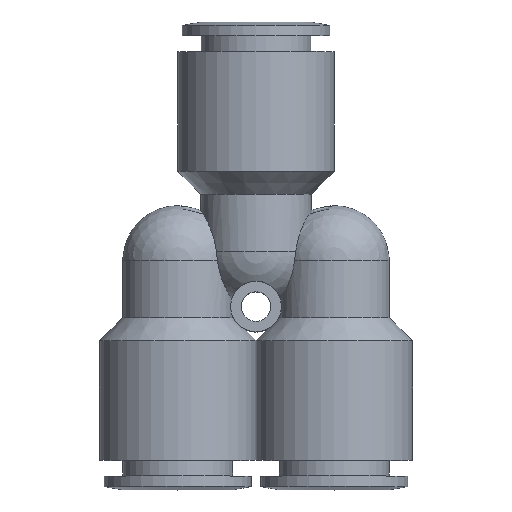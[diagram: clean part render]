
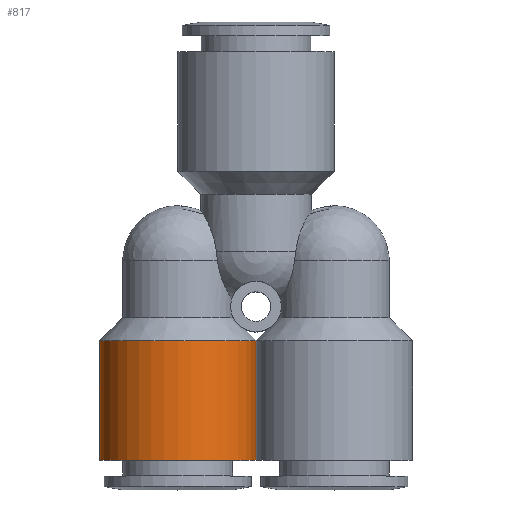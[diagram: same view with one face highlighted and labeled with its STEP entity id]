
A CAD part, top view. The second image highlights one B-rep face of the part: STEP entity #817.
In plain terms, the highlighted cylindrical face has radius 8.5 mm (diameter 17 mm), a full revolution.
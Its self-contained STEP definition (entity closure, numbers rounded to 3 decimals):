
#770=CARTESIAN_POINT('',(0.0,-3.7,0.0));
#771=VERTEX_POINT('',#770);
#772=CARTESIAN_POINT('',(-8.5,-3.7,0.0));
#773=DIRECTION('',(0.0,-1.0,0.0));
#774=DIRECTION('',(1.0,0.0,0.0));
#775=AXIS2_PLACEMENT_3D('',#772,#773,#774);
#776=CIRCLE('',#775,8.5);
#777=EDGE_CURVE('',#771,#771,#776,.T.);
#788=CARTESIAN_POINT('',(-8.5,-10.2,0.0));
#789=DIRECTION('',(0.,-1.0,0.0));
#790=DIRECTION('',(1.0,0.0,0.0));
#791=AXIS2_PLACEMENT_3D('',#788,#789,#790);
#792=CYLINDRICAL_SURFACE('',#791,8.5);
#793=ORIENTED_EDGE('',*,*,#777,.T.);
#794=CARTESIAN_POINT('',(0.0,-16.7,0.0));
#795=VERTEX_POINT('',#794);
#796=CARTESIAN_POINT('',(0.0,-3.7,0.0));
#797=DIRECTION('',(0.0,-1.0,0.0));
#798=VECTOR('',#797,13.0);
#799=LINE('',#796,#798);
#800=EDGE_CURVE('',#771,#795,#799,.T.);
#801=ORIENTED_EDGE('',*,*,#800,.T.);
#802=CARTESIAN_POINT('',(-8.5,-16.7,0.0));
#803=DIRECTION('',(0.0,-1.0,0.0));
#804=DIRECTION('',(1.0,0.0,0.0));
#805=AXIS2_PLACEMENT_3D('',#802,#803,#804);
#806=CIRCLE('',#805,8.5);
#807=EDGE_CURVE('',#795,#795,#806,.T.);
#808=ORIENTED_EDGE('',*,*,#807,.F.);
#809=CARTESIAN_POINT('',(0.0,-3.7,0.0));
#810=DIRECTION('',(0.0,-1.0,0.0));
#811=VECTOR('',#810,13.0);
#812=LINE('',#809,#811);
#813=EDGE_CURVE('',#771,#795,#812,.T.);
#814=ORIENTED_EDGE('',*,*,#813,.F.);
#815=EDGE_LOOP('',(#793,#801,#808,#814));
#816=FACE_OUTER_BOUND('',#815,.T.);
#817=ADVANCED_FACE('',(#816),#792,.T.);
